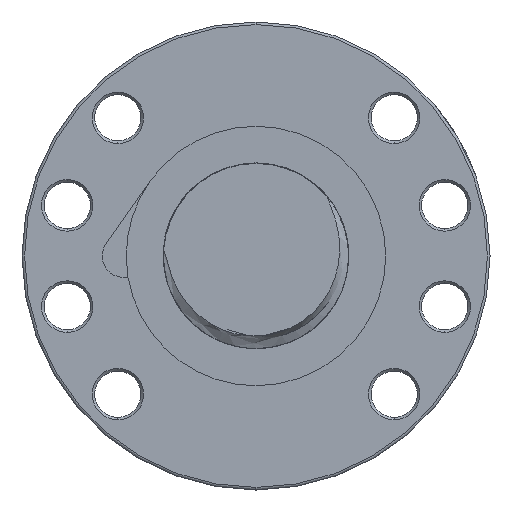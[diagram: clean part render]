
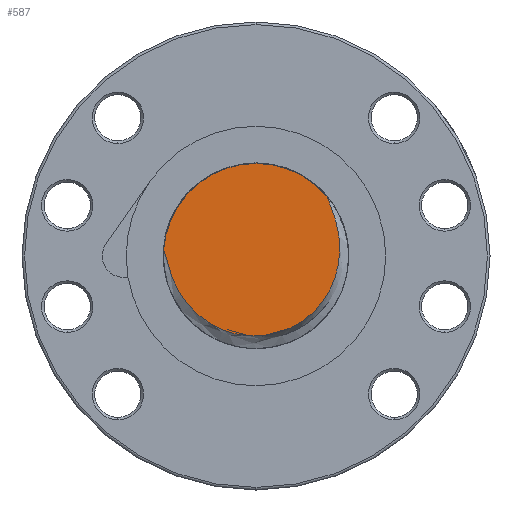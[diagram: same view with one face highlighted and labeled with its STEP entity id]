
A CAD part, left-side view. The second image highlights one B-rep face of the part: STEP entity #587.
In plain terms, the highlighted planar face has unit normal (-1, 0, 0).
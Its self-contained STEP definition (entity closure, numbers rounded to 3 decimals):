
#582 = EDGE_CURVE ( 'NONE', #22317, #22248, #22491, .T. ) ;
#584 = ORIENTED_EDGE ( 'NONE', *, *, #582, .T. ) ;
#585 = ORIENTED_EDGE ( 'NONE', *, *, #22247, .F. ) ;
#586 = ORIENTED_EDGE ( 'NONE', *, *, #22316, .F. ) ;
#587 = ADVANCED_FACE ( 'NONE', ( #22416 ), #22358, .F. ) ;
#588 = EDGE_LOOP ( 'NONE', ( #586, #584, #585 ) ) ;
#22247 = EDGE_CURVE ( 'NONE', #22318, #22248, #34187, .T. ) ;
#22248 = VERTEX_POINT ( 'NONE', #34188 ) ;
#22316 = EDGE_CURVE ( 'NONE', #22317, #22318, #43465, .T. ) ;
#22317 = VERTEX_POINT ( 'NONE', #43456 ) ;
#22318 = VERTEX_POINT ( 'NONE', #43454 ) ;
#22354 = DIRECTION ( 'NONE',  ( 0., 0., -1. ) ) ;
#22355 = DIRECTION ( 'NONE',  ( 1., 0., 0. ) ) ;
#22356 = CARTESIAN_POINT ( 'NONE',  ( -203., 0., 0. ) ) ;
#22357 = AXIS2_PLACEMENT_3D ( 'NONE', #22356, #22355, #22354 ) ;
#22358 = PLANE ( 'NONE',  #22357 ) ;
#22416 = FACE_OUTER_BOUND ( 'NONE', #588, .T. ) ;
#22417 = CARTESIAN_POINT ( 'NONE',  ( -203., -13.808, 11.548 ) ) ;
#22418 = CARTESIAN_POINT ( 'NONE',  ( -203., -13.914, 11.232 ) ) ;
#22419 = CARTESIAN_POINT ( 'NONE',  ( -203., -14.037, 10.923 ) ) ;
#22420 = CARTESIAN_POINT ( 'NONE',  ( -203., -14.283, 10.305 ) ) ;
#22421 = CARTESIAN_POINT ( 'NONE',  ( -203., -14.409, 9.996 ) ) ;
#22422 = CARTESIAN_POINT ( 'NONE',  ( -203., -14.775, 9.068 ) ) ;
#22423 = CARTESIAN_POINT ( 'NONE',  ( -203., -15.007, 8.443 ) ) ;
#22424 = CARTESIAN_POINT ( 'NONE',  ( -203., -15.421, 7.181 ) ) ;
#22425 = CARTESIAN_POINT ( 'NONE',  ( -203., -15.603, 6.543 ) ) ;
#22426 = CARTESIAN_POINT ( 'NONE',  ( -203., -15.906, 5.251 ) ) ;
#22427 = CARTESIAN_POINT ( 'NONE',  ( -203., -16.027, 4.595 ) ) ;
#22428 = CARTESIAN_POINT ( 'NONE',  ( -203., -16.29, 2.621 ) ) ;
#22429 = CARTESIAN_POINT ( 'NONE',  ( -203., -16.331, 1.304 ) ) ;
#22430 = CARTESIAN_POINT ( 'NONE',  ( -203., -16.2, -0.343 ) ) ;
#22431 = CARTESIAN_POINT ( 'NONE',  ( -203., -16.165, -0.672 ) ) ;
#22432 = CARTESIAN_POINT ( 'NONE',  ( -203., -16.075, -1.331 ) ) ;
#22433 = CARTESIAN_POINT ( 'NONE',  ( -203., -16.021, -1.661 ) ) ;
#22434 = CARTESIAN_POINT ( 'NONE',  ( -203., -15.831, -2.638 ) ) ;
#22435 = CARTESIAN_POINT ( 'NONE',  ( -203., -15.67, -3.277 ) ) ;
#22436 = CARTESIAN_POINT ( 'NONE',  ( -203., -15.274, -4.533 ) ) ;
#22437 = CARTESIAN_POINT ( 'NONE',  ( -203., -15.041, -5.15 ) ) ;
#22439 = CARTESIAN_POINT ( 'NONE',  ( -203., -14.5, -6.358 ) ) ;
#22440 = CARTESIAN_POINT ( 'NONE',  ( -203., -14.191, -6.953 ) ) ;
#22441 = CARTESIAN_POINT ( 'NONE',  ( -203., -13.172, -8.658 ) ) ;
#22442 = CARTESIAN_POINT ( 'NONE',  ( -203., -12.369, -9.701 ) ) ;
#22444 = CARTESIAN_POINT ( 'NONE',  ( -203., -11.206, -10.885 ) ) ;
#22445 = CARTESIAN_POINT ( 'NONE',  ( -203., -10.965, -11.117 ) ) ;
#22446 = CARTESIAN_POINT ( 'NONE',  ( -203., -10.471, -11.562 ) ) ;
#22447 = CARTESIAN_POINT ( 'NONE',  ( -203., -10.219, -11.777 ) ) ;
#22448 = CARTESIAN_POINT ( 'NONE',  ( -203., -9.445, -12.395 ) ) ;
#22449 = CARTESIAN_POINT ( 'NONE',  ( -203., -8.907, -12.774 ) ) ;
#22450 = CARTESIAN_POINT ( 'NONE',  ( -203., -7.786, -13.467 ) ) ;
#22451 = CARTESIAN_POINT ( 'NONE',  ( -203., -7.204, -13.78 ) ) ;
#22452 = CARTESIAN_POINT ( 'NONE',  ( -203., -5.994, -14.338 ) ) ;
#22453 = CARTESIAN_POINT ( 'NONE',  ( -203., -5.374, -14.579 ) ) ;
#22454 = CARTESIAN_POINT ( 'NONE',  ( -203., -4.119, -14.983 ) ) ;
#22455 = CARTESIAN_POINT ( 'NONE',  ( -203., -3.482, -15.146 ) ) ;
#22456 = CARTESIAN_POINT ( 'NONE',  ( -203., -2.187, -15.395 ) ) ;
#22458 = CARTESIAN_POINT ( 'NONE',  ( -203., -1.527, -15.481 ) ) ;
#22459 = CARTESIAN_POINT ( 'NONE',  ( -203., 0.466, -15.619 ) ) ;
#22460 = CARTESIAN_POINT ( 'NONE',  ( -203., 1.781, -15.549 ) ) ;
#22461 = CARTESIAN_POINT ( 'NONE',  ( -203., 3.406, -15.267 ) ) ;
#22462 = CARTESIAN_POINT ( 'NONE',  ( -203., 3.73, -15.201 ) ) ;
#22463 = CARTESIAN_POINT ( 'NONE',  ( -203., 4.376, -15.049 ) ) ;
#22464 = CARTESIAN_POINT ( 'NONE',  ( -203., 4.699, -14.962 ) ) ;
#22465 = CARTESIAN_POINT ( 'NONE',  ( -203., 5.654, -14.676 ) ) ;
#22466 = CARTESIAN_POINT ( 'NONE',  ( -203., 6.273, -14.449 ) ) ;
#22468 = CARTESIAN_POINT ( 'NONE',  ( -203., 7.479, -13.925 ) ) ;
#22469 = CARTESIAN_POINT ( 'NONE',  ( -203., 8.066, -13.628 ) ) ;
#22470 = CARTESIAN_POINT ( 'NONE',  ( -203., 8.921, -13.131 ) ) ;
#22471 = CARTESIAN_POINT ( 'NONE',  ( -203., 9.202, -12.957 ) ) ;
#22472 = CARTESIAN_POINT ( 'NONE',  ( -203., 9.755, -12.591 ) ) ;
#22473 = CARTESIAN_POINT ( 'NONE',  ( -203., 10.029, -12.398 ) ) ;
#22474 = CARTESIAN_POINT ( 'NONE',  ( -203., 11.359, -11.403 ) ) ;
#22475 = CARTESIAN_POINT ( 'NONE',  ( -203., 12.314, -10.498 ) ) ;
#22476 = CARTESIAN_POINT ( 'NONE',  ( -203., 13.381, -9.24 ) ) ;
#22477 = CARTESIAN_POINT ( 'NONE',  ( -203., 13.588, -8.982 ) ) ;
#22478 = CARTESIAN_POINT ( 'NONE',  ( -203., 13.989, -8.453 ) ) ;
#22479 = CARTESIAN_POINT ( 'NONE',  ( -203., 14.184, -8.182 ) ) ;
#22480 = CARTESIAN_POINT ( 'NONE',  ( -203., 14.742, -7.357 ) ) ;
#22481 = CARTESIAN_POINT ( 'NONE',  ( -203., 15.081, -6.793 ) ) ;
#22482 = CARTESIAN_POINT ( 'NONE',  ( -203., 16.008, -5.06 ) ) ;
#22483 = CARTESIAN_POINT ( 'NONE',  ( -203., 16.506, -3.85 ) ) ;
#22484 = CARTESIAN_POINT ( 'NONE',  ( -203., 17.11, -1.973 ) ) ;
#22485 = CARTESIAN_POINT ( 'NONE',  ( -203., 17.287, -1.336 ) ) ;
#22486 = CARTESIAN_POINT ( 'NONE',  ( -203., 17.535, -0.373 ) ) ;
#22487 = CARTESIAN_POINT ( 'NONE',  ( -203., 17.614, -0.051 ) ) ;
#22488 = CARTESIAN_POINT ( 'NONE',  ( -203., 17.777, 0.591 ) ) ;
#22489 = CARTESIAN_POINT ( 'NONE',  ( -203., 17.859, 0.912 ) ) ;
#22490 = CARTESIAN_POINT ( 'NONE',  ( -203., 17.958, 1.228 ) ) ;
#22491 = B_SPLINE_CURVE_WITH_KNOTS ( 'NONE', 3,
 ( #22490, #22489, #22488, #22487, #22486, #22485, #22484, #22483, #22482, #22481, #22480, #22479, #22478, #22477, #22476, #22475, #22474, #22473, #22472, #22471, #22470, #22469, #22468, #22466, #22465, #22464, #22463, #22462, #22461, #22460, #22459, #22458, #22456, #22455, #22454, #22453, #22452, #22451, #22450, #22449, #22448, #22447, #22446, #22445, #22444, #22442, #22441, #22440, #22439, #22437, #22436, #22435, #22434, #22433, #22432, #22431, #22430, #22429, #22428, #22427, #22426, #22425, #22424, #22423, #22422, #22421, #22420, #22419, #22418, #22417 ),
 .UNSPECIFIED., .F., .F.,
 ( 4, 2, 2, 2, 2, 2, 2, 2, 2, 2, 2, 2, 2, 2, 2, 2, 2, 2, 2, 2, 2, 2, 2, 2, 2, 2, 2, 2, 2, 2, 2, 2, 2, 2, 4 ),
 ( 0.001, 0.002, 0.003, 0.005, 0.009, 0.011, 0.012, 0.013, 0.017, 0.018, 0.019, 0.021, 0.023, 0.024, 0.025, 0.028, 0.03, 0.032, 0.034, 0.036, 0.038, 0.039, 0.04, 0.044, 0.046, 0.048, 0.05, 0.051, 0.052, 0.056, 0.058, 0.06, 0.062, 0.063, 0.064 ),
 .UNSPECIFIED. ) ;
#34156 = CARTESIAN_POINT ( 'NONE',  ( -203., 0., 0. ) ) ;
#34184 = DIRECTION ( 'NONE',  ( 0., 1., 0. ) ) ;
#34185 = DIRECTION ( 'NONE',  ( 1., 0., 0. ) ) ;
#34186 = AXIS2_PLACEMENT_3D ( 'NONE', #34156, #34185, #34184 ) ;
#34187 = CIRCLE ( 'NONE', #34186, 18. ) ;
#34188 = CARTESIAN_POINT ( 'NONE',  ( -203., -13.808, 11.548 ) ) ;
#43454 = CARTESIAN_POINT ( 'NONE',  ( -203., 0., 18. ) ) ;
#43456 = CARTESIAN_POINT ( 'NONE',  ( -203., 17.958, 1.228 ) ) ;
#43458 = DIRECTION ( 'NONE',  ( 0., 1., 0. ) ) ;
#43460 = DIRECTION ( 'NONE',  ( 1., 0., 0. ) ) ;
#43462 = CARTESIAN_POINT ( 'NONE',  ( -203., 0., 0. ) ) ;
#43463 = AXIS2_PLACEMENT_3D ( 'NONE', #43462, #43460, #43458 ) ;
#43465 = CIRCLE ( 'NONE', #43463, 18. ) ;
